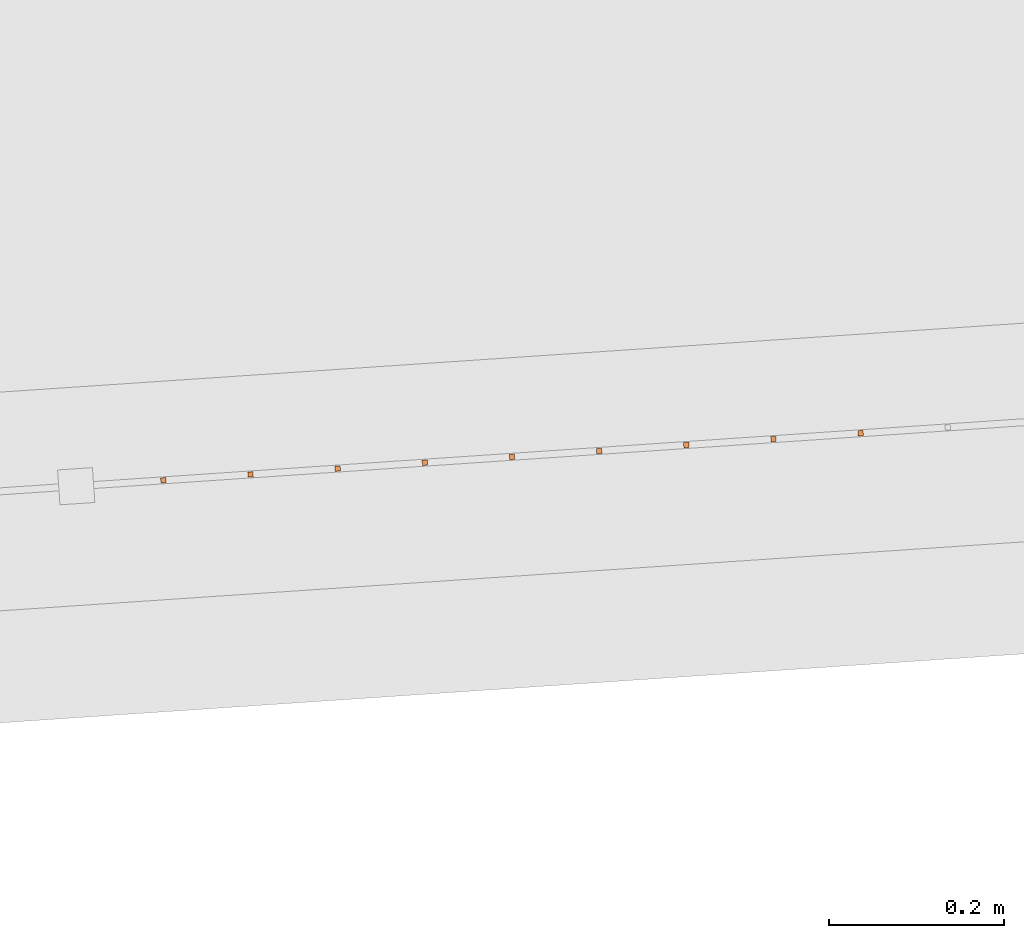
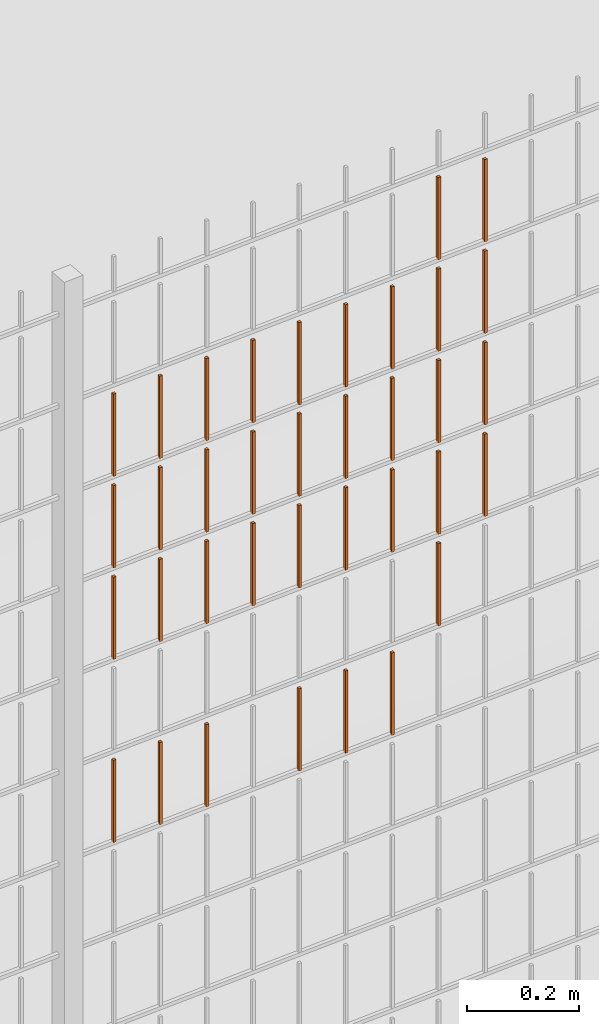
# One storey, part 155 of 1809: 36 proxies, 1 element without a shape of its own.
"""IFC2X3 building model written with IfcOpenShell, lengths in millimetres."""

from ifc_helpers import new_model, entity, si_unit, converted_unit, derived_unit, money_unit, direction, frame, origin_with_axes, place, context, subcontext, project, spatial, faceted_brep, source, transform, mapped, material, type_object, element, aggregate, save


model = new_model("IFC2X3")

# Units and contexts
model_context = context("Model", 3, precision=0.01, world=origin_with_axes(), true_north=direction((0.0, 1.0)))
body_context = subcontext(model_context, "Body", "Model", "MODEL_VIEW")
ifc_project = project(units=[si_unit("LENGTHUNIT", "METRE", prefix="MILLI"), si_unit("AREAUNIT", "SQUARE_METRE"), si_unit("VOLUMEUNIT", "CUBIC_METRE"), converted_unit("PLANEANGLEUNIT", "DEGREE", entity("IfcPlaneAngleMeasure", 0.0174532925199), si_unit("PLANEANGLEUNIT", "RADIAN"), dimensions=[0, 0, 0, 0, 0, 0, 0]), si_unit("SOLIDANGLEUNIT", "STERADIAN"), money_unit("EUR"), converted_unit("TIMEUNIT", "Year", entity("IfcTimeMeasure", 31556926.0), si_unit("TIMEUNIT", "SECOND"), dimensions=[0, 0, 1, 0, 0, 0, 0]), si_unit("MASSUNIT", "GRAM", prefix="KILO"), si_unit("THERMODYNAMICTEMPERATUREUNIT", "DEGREE_CELSIUS"), si_unit("LUMINOUSINTENSITYUNIT", "LUMEN"), si_unit("ENERGYUNIT", "JOULE", prefix="MEGA"), derived_unit("THERMALCONDUCTANCEUNIT", [(si_unit("POWERUNIT", "WATT"), 1), (si_unit("LENGTHUNIT", "METRE"), -1), (si_unit("THERMODYNAMICTEMPERATUREUNIT", "KELVIN"), -1)]), derived_unit("SPECIFICHEATCAPACITYUNIT", [(si_unit("ENERGYUNIT", "JOULE"), 1), (si_unit("MASSUNIT", "GRAM", prefix="KILO"), -1), (si_unit("THERMODYNAMICTEMPERATUREUNIT", "KELVIN"), -1)]), derived_unit("MASSDENSITYUNIT", [(si_unit("MASSUNIT", "GRAM", prefix="KILO"), 1), (si_unit("VOLUMEUNIT", "CUBIC_METRE"), -1)])], contexts=[model_context])

# Site, building, storey
site_placement = place(None, origin_with_axes())
site = spatial("IfcSite", under=ifc_project, at=site_placement, Name="Politse- ja Piirivalveameti ning Päästeameti ühishoone", CompositionType="ELEMENT")
building_placement = place(site_placement, origin_with_axes())
building = spatial("IfcBuilding", under=site, at=building_placement, Name="Politse- ja Piirivalveameti ning Päästeameti ühishoone", CompositionType="ELEMENT")
storey_placement = place(building_placement, origin_with_axes())
storey = spatial("IfcBuildingStorey", under=building, at=storey_placement, Name="Esimene korrus", CompositionType="ELEMENT", Elevation=0.0)

# Proxies
building_element_proxy_type_1 = type_object("IfcBuildingElementProxyType", Name="Railing Type", PredefinedType="NOTDEFINED")
proxy_1_placement = place(storey_placement, frame((89252.001212, -29183.4766571, 203.661247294), z_axis=(0.0, 0.0, 1.0), x_axis=(1.0, 0.0, 0.0)))
proxy_1 = element("IfcBuildingElementProxy", 1, at=proxy_1_placement, inside=storey, type_object=building_element_proxy_type_1, Name="PIIRDEAED")
ifc_material = material(Name="ET-03_Raud")
building_element_proxy_type_2 = type_object("IfcBuildingElementProxyType", Name="IfcBuildingElementProxy", PredefinedType="NOTDEFINED")
shared_shape_1 = source(origin_with_axes(), body_context, "Body", "Brep", [
    faceted_brep([(3.0, 3.0, -0.000752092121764), (-3.0, 3.0, -0.000752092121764), (-3.0, 3.0, 179.99926046), (3.0, 3.0, 179.99926046), (3.0, -3.0, 0.000752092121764), (-3.0, -3.0, 0.000752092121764), (-3.0, -3.0, 180.000764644), (3.0, -3.0, 180.000764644)], [[[0, 1, 2, 3]], [[0, 4, 5, 1]], [[1, 5, 6, 2]], [[3, 2, 6, 7]], [[4, 0, 3, 7]], [[5, 4, 7, 6]]]),
])
proxy_2_placement = place(proxy_1_placement, frame((-81640.6574683, -22812.2930729, 806.72064972), z_axis=(0.0, 0.0, 1.0), x_axis=(1.0, 0.0, 0.0)))
proxy_2 = element("IfcBuildingElementProxy", 2, at=proxy_2_placement, type_object=building_element_proxy_type_2, material=ifc_material, Name="BALUSTER - 001", context=body_context, shape_type="MappedRepresentation", body=[
    mapped(shared_shape_1, transform((0.0, 0.0, 0.0), x_axis=(-0.0673926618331, 0.997726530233, 0.0), y_axis=(-0.997726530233, -0.0673926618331, 0.0), z_axis=(0.0, 0.0, 1.0))),
])
proxy_3_placement = place(proxy_1_placement, frame((-81640.6574683, -22812.2930729, 1206.72064972), z_axis=(0.0, 0.0, 1.0), x_axis=(1.0, 0.0, 0.0)))
proxy_3 = element("IfcBuildingElementProxy", 3, at=proxy_3_placement, type_object=building_element_proxy_type_2, material=ifc_material, Name="BALUSTER - 001", context=body_context, shape_type="MappedRepresentation", body=[
    mapped(shared_shape_1, transform((0.0, 0.0, 0.0), x_axis=(-0.0673926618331, 0.997726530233, 0.0), y_axis=(-0.997726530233, -0.0673926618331, 0.0), z_axis=(0.0, 0.0, 1.0))),
])
shared_shape_2 = source(origin_with_axes(), body_context, "Body", "Brep", [
    faceted_brep([(3.0, 3.0, -0.000752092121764), (-3.0, 3.0, -0.000752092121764), (-3.0, 3.0, 179.99926046), (3.0, 3.0, 179.99926046), (3.0, -3.0, 0.000752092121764), (-3.0, -3.0, 0.000752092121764), (-3.0, -3.0, 180.000764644), (3.0, -3.0, 180.000764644)], [[[0, 1, 2, 3]], [[0, 4, 5, 1]], [[1, 5, 6, 2]], [[3, 2, 6, 7]], [[4, 0, 3, 7]], [[5, 4, 7, 6]]]),
])
proxy_4_placement = place(proxy_1_placement, frame((-81640.6574683, -22812.2930729, 1406.72064972), z_axis=(0.0, 0.0, 1.0), x_axis=(1.0, 0.0, 0.0)))
proxy_4 = element("IfcBuildingElementProxy", 4, at=proxy_4_placement, type_object=building_element_proxy_type_2, material=ifc_material, Name="BALUSTER - 001", context=body_context, shape_type="MappedRepresentation", body=[
    mapped(shared_shape_2, transform((0.0, 0.0, 0.0), x_axis=(-0.0673926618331, 0.997726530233, 0.0), y_axis=(-0.997726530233, -0.0673926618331, 0.0), z_axis=(0.0, 0.0, 1.0))),
])
proxy_5_placement = place(proxy_1_placement, frame((-81640.6574683, -22812.2930729, 1606.72064972), z_axis=(0.0, 0.0, 1.0), x_axis=(1.0, 0.0, 0.0)))
proxy_5 = element("IfcBuildingElementProxy", 5, at=proxy_5_placement, type_object=building_element_proxy_type_2, material=ifc_material, Name="BALUSTER - 001", context=body_context, shape_type="MappedRepresentation", body=[
    mapped(shared_shape_2, transform((0.0, 0.0, 0.0), x_axis=(-0.0673926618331, 0.997726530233, 0.0), y_axis=(-0.997726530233, -0.0673926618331, 0.0), z_axis=(0.0, 0.0, 1.0))),
])
shared_shape_3 = source(origin_with_axes(), body_context, "Body", "Brep", [
    faceted_brep([(3.0, 3.0, -0.000752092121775), (-3.0, 3.0, -0.000752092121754), (-3.0, 3.0, 179.99926046), (3.0, 3.0, 179.99926046), (3.0, -3.0, 0.000752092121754), (-3.0, -3.0, 0.000752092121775), (-3.0, -3.0, 180.000764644), (3.0, -3.0, 180.000764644)], [[[0, 1, 2, 3]], [[0, 4, 5, 1]], [[1, 5, 6, 2]], [[3, 2, 6, 7]], [[4, 0, 3, 7]], [[5, 4, 7, 6]]]),
])
proxy_6_placement = place(proxy_1_placement, frame((-81241.5668562, -22785.3360081, 1206.82092867), z_axis=(0.0, 0.0, 1.0), x_axis=(1.0, 0.0, 0.0)))
proxy_6 = element("IfcBuildingElementProxy", 6, at=proxy_6_placement, type_object=building_element_proxy_type_2, material=ifc_material, Name="BALUSTER - 001", context=body_context, shape_type="MappedRepresentation", body=[
    mapped(shared_shape_3, transform((0.0, 0.0, 0.0), x_axis=(-0.0673926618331, 0.997726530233, 0.0), y_axis=(-0.997726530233, -0.0673926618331, 0.0), z_axis=(0.0, 0.0, 1.0))),
])
shared_shape_4 = source(origin_with_axes(), body_context, "Body", "Brep", [
    faceted_brep([(3.0, 3.0, -0.000752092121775), (-3.0, 3.0, -0.000752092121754), (-3.0, 3.0, 179.99926046), (3.0, 3.0, 179.99926046), (3.0, -3.0, 0.000752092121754), (-3.0, -3.0, 0.000752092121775), (-3.0, -3.0, 180.000764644), (3.0, -3.0, 180.000764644)], [[[0, 1, 2, 3]], [[0, 4, 5, 1]], [[1, 5, 6, 2]], [[3, 2, 6, 7]], [[4, 0, 3, 7]], [[5, 4, 7, 6]]]),
])
proxy_7_placement = place(proxy_1_placement, frame((-81241.5668562, -22785.3360081, 1406.82092867), z_axis=(0.0, 0.0, 1.0), x_axis=(1.0, 0.0, 0.0)))
proxy_7 = element("IfcBuildingElementProxy", 7, at=proxy_7_placement, type_object=building_element_proxy_type_2, material=ifc_material, Name="BALUSTER - 001", context=body_context, shape_type="MappedRepresentation", body=[
    mapped(shared_shape_4, transform((0.0, 0.0, 0.0), x_axis=(-0.0673926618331, 0.997726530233, 0.0), y_axis=(-0.997726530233, -0.0673926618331, 0.0), z_axis=(0.0, 0.0, 1.0))),
])
proxy_8_placement = place(proxy_1_placement, frame((-81241.5668562, -22785.3360081, 1606.82092867), z_axis=(0.0, 0.0, 1.0), x_axis=(1.0, 0.0, 0.0)))
proxy_8 = element("IfcBuildingElementProxy", 8, at=proxy_8_placement, type_object=building_element_proxy_type_2, material=ifc_material, Name="BALUSTER - 001", context=body_context, shape_type="MappedRepresentation", body=[
    mapped(shared_shape_4, transform((0.0, 0.0, 0.0), x_axis=(-0.0673926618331, 0.997726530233, 0.0), y_axis=(-0.997726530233, -0.0673926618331, 0.0), z_axis=(0.0, 0.0, 1.0))),
])
shared_shape_5 = source(origin_with_axes(), body_context, "Body", "Brep", [
    faceted_brep([(3.0, 3.0, -0.000752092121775), (-3.0, 3.0, -0.000752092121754), (-3.0, 3.0, 179.99926046), (3.0, 3.0, 179.99926046), (3.0, -3.0, 0.000752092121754), (-3.0, -3.0, 0.000752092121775), (-3.0, -3.0, 180.000764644), (3.0, -3.0, 180.000764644)], [[[0, 1, 2, 3]], [[0, 4, 5, 1]], [[1, 5, 6, 2]], [[3, 2, 6, 7]], [[4, 0, 3, 7]], [[5, 4, 7, 6]]]),
])
proxy_9_placement = place(proxy_1_placement, frame((-81241.5668562, -22785.3360081, 1806.82092867), z_axis=(0.0, 0.0, 1.0), x_axis=(1.0, 0.0, 0.0)))
proxy_9 = element("IfcBuildingElementProxy", 9, at=proxy_9_placement, type_object=building_element_proxy_type_2, material=ifc_material, Name="BALUSTER - 001", context=body_context, shape_type="MappedRepresentation", body=[
    mapped(shared_shape_5, transform((0.0, 0.0, 0.0), x_axis=(-0.0673926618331, 0.997726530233, 0.0), y_axis=(-0.997726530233, -0.0673926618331, 0.0), z_axis=(0.0, 0.0, 1.0))),
])
shared_shape_6 = source(origin_with_axes(), body_context, "Body", "Brep", [
    faceted_brep([(3.0, 3.0, -0.000752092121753), (-3.0, 3.0, -0.000752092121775), (-3.0, 3.0, 179.99926046), (3.0, 3.0, 179.99926046), (3.0, -3.0, 0.000752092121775), (-3.0, -3.0, 0.000752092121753), (-3.0, -3.0, 180.000764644), (3.0, -3.0, 180.000764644)], [[[0, 1, 2, 3]], [[0, 4, 5, 1]], [[1, 5, 6, 2]], [[3, 2, 6, 7]], [[4, 0, 3, 7]], [[5, 4, 7, 6]]]),
])
proxy_10_placement = place(proxy_1_placement, frame((-81441.1121622, -22798.8145405, 806.770789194), z_axis=(0.0, 0.0, 1.0), x_axis=(1.0, 0.0, 0.0)))
proxy_10 = element("IfcBuildingElementProxy", 10, at=proxy_10_placement, type_object=building_element_proxy_type_2, material=ifc_material, Name="BALUSTER - 001", context=body_context, shape_type="MappedRepresentation", body=[
    mapped(shared_shape_6, transform((0.0, 0.0, 0.0), x_axis=(-0.0673926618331, 0.997726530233, 0.0), y_axis=(-0.997726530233, -0.0673926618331, 0.0), z_axis=(0.0, 0.0, 1.0))),
])
proxy_11_placement = place(proxy_1_placement, frame((-81441.1121622, -22798.8145405, 1206.77078919), z_axis=(0.0, 0.0, 1.0), x_axis=(1.0, 0.0, 0.0)))
proxy_11 = element("IfcBuildingElementProxy", 11, at=proxy_11_placement, type_object=building_element_proxy_type_2, material=ifc_material, Name="BALUSTER - 001", context=body_context, shape_type="MappedRepresentation", body=[
    mapped(shared_shape_6, transform((0.0, 0.0, 0.0), x_axis=(-0.0673926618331, 0.997726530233, 0.0), y_axis=(-0.997726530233, -0.0673926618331, 0.0), z_axis=(0.0, 0.0, 1.0))),
])
shared_shape_7 = source(origin_with_axes(), body_context, "Body", "Brep", [
    faceted_brep([(3.0, 3.0, -0.000752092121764), (-3.0, 3.0, -0.000752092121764), (-3.0, 3.0, 179.99926046), (3.0, 3.0, 179.99926046), (3.0, -3.0, 0.000752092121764), (-3.0, -3.0, 0.000752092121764), (-3.0, -3.0, 180.000764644), (3.0, -3.0, 180.000764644)], [[[0, 1, 2, 3]], [[0, 4, 5, 1]], [[1, 5, 6, 2]], [[3, 2, 6, 7]], [[4, 0, 3, 7]], [[5, 4, 7, 6]]]),
])
proxy_12_placement = place(proxy_1_placement, frame((-81540.8848152, -22805.5538067, 806.745719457), z_axis=(0.0, 0.0, 1.0), x_axis=(1.0, 0.0, 0.0)))
proxy_12 = element("IfcBuildingElementProxy", 12, at=proxy_12_placement, type_object=building_element_proxy_type_2, material=ifc_material, Name="BALUSTER - 001", context=body_context, shape_type="MappedRepresentation", body=[
    mapped(shared_shape_7, transform((0.0, 0.0, 0.0), x_axis=(-0.0673926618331, 0.997726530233, 0.0), y_axis=(-0.997726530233, -0.0673926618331, 0.0), z_axis=(0.0, 0.0, 1.0))),
])
shared_shape_8 = source(origin_with_axes(), body_context, "Body", "Brep", [
    faceted_brep([(3.0, 3.0, -0.000752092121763), (-3.0, 3.0, -0.000752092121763), (-3.0, 3.0, 179.99926046), (3.0, 3.0, 179.99926046), (3.0, -3.0, 0.000752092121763), (-3.0, -3.0, 0.000752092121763), (-3.0, -3.0, 180.000764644), (3.0, -3.0, 180.000764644)], [[[0, 1, 2, 3]], [[0, 4, 5, 1]], [[1, 5, 6, 2]], [[3, 2, 6, 7]], [[4, 0, 3, 7]], [[5, 4, 7, 6]]]),
])
proxy_13_placement = place(proxy_1_placement, frame((-81840.2027743, -22825.7716052, 806.670510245), z_axis=(0.0, 0.0, 1.0), x_axis=(1.0, 0.0, 0.0)))
proxy_13 = element("IfcBuildingElementProxy", 13, at=proxy_13_placement, type_object=building_element_proxy_type_2, material=ifc_material, Name="BALUSTER - 001", context=body_context, shape_type="MappedRepresentation", body=[
    mapped(shared_shape_8, transform((0.0, 0.0, 0.0), x_axis=(-0.0673926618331, 0.997726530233, 0.0), y_axis=(-0.997726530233, -0.0673926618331, 0.0), z_axis=(0.0, 0.0, 1.0))),
])
shared_shape_9 = source(origin_with_axes(), body_context, "Body", "Brep", [
    faceted_brep([(3.0, 3.0, -0.000752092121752), (-3.0, 3.0, -0.000752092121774), (-3.0, 3.0, 179.99926046), (3.0, 3.0, 179.99926046), (3.0, -3.0, 0.000752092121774), (-3.0, -3.0, 0.000752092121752), (-3.0, -3.0, 180.000764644), (3.0, -3.0, 180.000764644)], [[[0, 1, 2, 3]], [[0, 4, 5, 1]], [[1, 5, 6, 2]], [[3, 2, 6, 7]], [[4, 0, 3, 7]], [[5, 4, 7, 6]]]),
])
proxy_14_placement = place(proxy_1_placement, frame((-81939.9754273, -22832.5108714, 806.645440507), z_axis=(0.0, 0.0, 1.0), x_axis=(1.0, 0.0, 0.0)))
proxy_14 = element("IfcBuildingElementProxy", 14, at=proxy_14_placement, type_object=building_element_proxy_type_2, material=ifc_material, Name="BALUSTER - 001", context=body_context, shape_type="MappedRepresentation", body=[
    mapped(shared_shape_9, transform((0.0, 0.0, 0.0), x_axis=(-0.0673926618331, 0.997726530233, 0.0), y_axis=(-0.997726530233, -0.0673926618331, 0.0), z_axis=(0.0, 0.0, 1.0))),
])
shared_shape_10 = source(origin_with_axes(), body_context, "Body", "Brep", [
    faceted_brep([(3.0, 3.0, -0.000752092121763), (-3.0, 3.0, -0.000752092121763), (-3.0, 3.0, 179.99926046), (3.0, 3.0, 179.99926046), (3.0, -3.0, 0.000752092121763), (-3.0, -3.0, 0.000752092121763), (-3.0, -3.0, 180.000764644), (3.0, -3.0, 180.000764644)], [[[0, 1, 2, 3]], [[0, 4, 5, 1]], [[1, 5, 6, 2]], [[3, 2, 6, 7]], [[4, 0, 3, 7]], [[5, 4, 7, 6]]]),
])
proxy_15_placement = place(proxy_1_placement, frame((-82039.7480803, -22839.2501376, 806.62037077), z_axis=(0.0, 0.0, 1.0), x_axis=(1.0, 0.0, 0.0)))
proxy_15 = element("IfcBuildingElementProxy", 15, at=proxy_15_placement, type_object=building_element_proxy_type_2, material=ifc_material, Name="BALUSTER - 001", context=body_context, shape_type="MappedRepresentation", body=[
    mapped(shared_shape_10, transform((0.0, 0.0, 0.0), x_axis=(-0.0673926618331, 0.997726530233, 0.0), y_axis=(-0.997726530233, -0.0673926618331, 0.0), z_axis=(0.0, 0.0, 1.0))),
])
shared_shape_11 = source(origin_with_axes(), body_context, "Body", "Brep", [
    faceted_brep([(3.0, 3.0, -0.000752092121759), (-3.0, 3.0, -0.000752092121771), (-3.00000000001, 3.0, 179.99926046), (2.99999999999, 3.0, 179.99926046), (3.0, -3.0, 0.000752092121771), (-3.0, -3.0, 0.000752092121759), (-3.00000000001, -3.0, 180.000764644), (2.99999999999, -3.0, 180.000764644)], [[[0, 1, 2, 3]], [[0, 4, 5, 1]], [[1, 5, 6, 2]], [[3, 2, 6, 7]], [[4, 0, 3, 7]], [[5, 4, 7, 6]]]),
])
proxy_16_placement = place(proxy_1_placement, frame((-81341.3395092, -22792.0752743, 1006.79585893), z_axis=(0.0, 0.0, 1.0), x_axis=(1.0, 0.0, 0.0)))
proxy_16 = element("IfcBuildingElementProxy", 16, at=proxy_16_placement, type_object=building_element_proxy_type_2, material=ifc_material, Name="BALUSTER - 001", context=body_context, shape_type="MappedRepresentation", body=[
    mapped(shared_shape_11, transform((0.0, 0.0, 0.0), x_axis=(-0.0673926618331, 0.997726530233, 0.0), y_axis=(-0.997726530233, -0.0673926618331, 0.0), z_axis=(0.0, 0.0, 1.0))),
])
shared_shape_12 = source(origin_with_axes(), body_context, "Body", "Brep", [
    faceted_brep([(3.0, 3.0, -0.000752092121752), (-3.0, 3.0, -0.000752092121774), (-3.0, 3.0, 179.99926046), (3.0, 3.0, 179.99926046), (3.0, -3.0, 0.000752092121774), (-3.0, -3.0, 0.000752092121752), (-3.0, -3.0, 180.000764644), (3.0, -3.0, 180.000764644)], [[[0, 1, 2, 3]], [[0, 4, 5, 1]], [[1, 5, 6, 2]], [[3, 2, 6, 7]], [[4, 0, 3, 7]], [[5, 4, 7, 6]]]),
])
proxy_17_placement = place(proxy_1_placement, frame((-81341.3395092, -22792.0752743, 1206.79585893), z_axis=(0.0, 0.0, 1.0), x_axis=(1.0, 0.0, 0.0)))
proxy_17 = element("IfcBuildingElementProxy", 17, at=proxy_17_placement, type_object=building_element_proxy_type_2, material=ifc_material, Name="BALUSTER - 001", context=body_context, shape_type="MappedRepresentation", body=[
    mapped(shared_shape_12, transform((0.0, 0.0, 0.0), x_axis=(-0.0673926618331, 0.997726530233, 0.0), y_axis=(-0.997726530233, -0.0673926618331, 0.0), z_axis=(0.0, 0.0, 1.0))),
])
shared_shape_13 = source(origin_with_axes(), body_context, "Body", "Brep", [
    faceted_brep([(3.0, 3.0, -0.000752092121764), (-3.0, 3.0, -0.000752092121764), (-3.0, 3.0, 179.99926046), (3.0, 3.0, 179.99926046), (3.0, -3.0, 0.000752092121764), (-3.0, -3.0, 0.000752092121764), (-3.0, -3.0, 180.000764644), (3.0, -3.0, 180.000764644)], [[[0, 1, 2, 3]], [[0, 4, 5, 1]], [[1, 5, 6, 2]], [[3, 2, 6, 7]], [[4, 0, 3, 7]], [[5, 4, 7, 6]]]),
])
proxy_18_placement = place(proxy_1_placement, frame((-81540.8848152, -22805.5538067, 1206.74571946), z_axis=(0.0, 0.0, 1.0), x_axis=(1.0, 0.0, 0.0)))
proxy_18 = element("IfcBuildingElementProxy", 18, at=proxy_18_placement, type_object=building_element_proxy_type_2, material=ifc_material, Name="BALUSTER - 001", context=body_context, shape_type="MappedRepresentation", body=[
    mapped(shared_shape_13, transform((0.0, 0.0, 0.0), x_axis=(-0.0673926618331, 0.997726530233, 0.0), y_axis=(-0.997726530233, -0.0673926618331, 0.0), z_axis=(0.0, 0.0, 1.0))),
])
shared_shape_14 = source(origin_with_axes(), body_context, "Body", "Brep", [
    faceted_brep([(3.0, 3.0, -0.000752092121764), (-3.0, 3.0, -0.000752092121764), (-3.0, 3.0, 179.99926046), (3.0, 3.0, 179.99926046), (3.0, -3.0, 0.000752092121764), (-3.0, -3.0, 0.000752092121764), (-3.0, -3.0, 180.000764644), (3.0, -3.0, 180.000764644)], [[[0, 1, 2, 3]], [[0, 4, 5, 1]], [[1, 5, 6, 2]], [[3, 2, 6, 7]], [[4, 0, 3, 7]], [[5, 4, 7, 6]]]),
])
proxy_19_placement = place(proxy_1_placement, frame((-81740.4301213, -22819.032339, 1206.69557998), z_axis=(0.0, 0.0, 1.0), x_axis=(1.0, 0.0, 0.0)))
proxy_19 = element("IfcBuildingElementProxy", 19, at=proxy_19_placement, type_object=building_element_proxy_type_2, material=ifc_material, Name="BALUSTER - 001", context=body_context, shape_type="MappedRepresentation", body=[
    mapped(shared_shape_14, transform((0.0, 0.0, 0.0), x_axis=(-0.0673926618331, 0.997726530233, 0.0), y_axis=(-0.997726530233, -0.0673926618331, 0.0), z_axis=(0.0, 0.0, 1.0))),
])
shared_shape_15 = source(origin_with_axes(), body_context, "Body", "Brep", [
    faceted_brep([(3.0, 3.0, -0.000752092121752), (-3.0, 3.0, -0.000752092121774), (-3.0, 3.0, 179.99926046), (3.0, 3.0, 179.99926046), (3.0, -3.0, 0.000752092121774), (-3.0, -3.0, 0.000752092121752), (-3.0, -3.0, 180.000764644), (3.0, -3.0, 180.000764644)], [[[0, 1, 2, 3]], [[0, 4, 5, 1]], [[1, 5, 6, 2]], [[3, 2, 6, 7]], [[4, 0, 3, 7]], [[5, 4, 7, 6]]]),
])
proxy_20_placement = place(proxy_1_placement, frame((-81840.2027743, -22825.7716052, 1206.67051024), z_axis=(0.0, 0.0, 1.0), x_axis=(1.0, 0.0, 0.0)))
proxy_20 = element("IfcBuildingElementProxy", 20, at=proxy_20_placement, type_object=building_element_proxy_type_2, material=ifc_material, Name="BALUSTER - 001", context=body_context, shape_type="MappedRepresentation", body=[
    mapped(shared_shape_15, transform((0.0, 0.0, 0.0), x_axis=(-0.0673926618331, 0.997726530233, 0.0), y_axis=(-0.997726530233, -0.0673926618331, 0.0), z_axis=(0.0, 0.0, 1.0))),
])
proxy_21_placement = place(proxy_1_placement, frame((-81341.3395092, -22792.0752743, 1806.79585893), z_axis=(0.0, 0.0, 1.0), x_axis=(1.0, 0.0, 0.0)))
proxy_21 = element("IfcBuildingElementProxy", 21, at=proxy_21_placement, type_object=building_element_proxy_type_2, material=ifc_material, Name="BALUSTER - 001", context=body_context, shape_type="MappedRepresentation", body=[
    mapped(shared_shape_15, transform((0.0, 0.0, 0.0), x_axis=(-0.0673926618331, 0.997726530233, 0.0), y_axis=(-0.997726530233, -0.0673926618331, 0.0), z_axis=(0.0, 0.0, 1.0))),
])
shared_shape_16 = source(origin_with_axes(), body_context, "Body", "Brep", [
    faceted_brep([(3.0, 3.0, -0.000752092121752), (-3.0, 3.0, -0.000752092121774), (-3.0, 3.0, 179.99926046), (3.0, 3.0, 179.99926046), (3.0, -3.0, 0.000752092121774), (-3.0, -3.0, 0.000752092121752), (-3.0, -3.0, 180.000764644), (3.0, -3.0, 180.000764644)], [[[0, 1, 2, 3]], [[0, 4, 5, 1]], [[1, 5, 6, 2]], [[3, 2, 6, 7]], [[4, 0, 3, 7]], [[5, 4, 7, 6]]]),
])
proxy_22_placement = place(proxy_1_placement, frame((-81939.9754273, -22832.5108714, 1206.64544051), z_axis=(0.0, 0.0, 1.0), x_axis=(1.0, 0.0, 0.0)))
proxy_22 = element("IfcBuildingElementProxy", 22, at=proxy_22_placement, type_object=building_element_proxy_type_2, material=ifc_material, Name="BALUSTER - 001", context=body_context, shape_type="MappedRepresentation", body=[
    mapped(shared_shape_16, transform((0.0, 0.0, 0.0), x_axis=(-0.0673926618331, 0.997726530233, 0.0), y_axis=(-0.997726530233, -0.0673926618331, 0.0), z_axis=(0.0, 0.0, 1.0))),
])
shared_shape_17 = source(origin_with_axes(), body_context, "Body", "Brep", [
    faceted_brep([(3.0, 3.0, -0.000752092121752), (-3.0, 3.0, -0.000752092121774), (-3.0, 3.0, 179.99926046), (3.0, 3.0, 179.99926046), (3.0, -3.0, 0.000752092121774), (-3.0, -3.0, 0.000752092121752), (-3.0, -3.0, 180.000764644), (3.0, -3.0, 180.000764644)], [[[0, 1, 2, 3]], [[0, 4, 5, 1]], [[1, 5, 6, 2]], [[3, 2, 6, 7]], [[4, 0, 3, 7]], [[5, 4, 7, 6]]]),
])
proxy_23_placement = place(proxy_1_placement, frame((-82039.7480803, -22839.2501376, 1206.62037077), z_axis=(0.0, 0.0, 1.0), x_axis=(1.0, 0.0, 0.0)))
proxy_23 = element("IfcBuildingElementProxy", 23, at=proxy_23_placement, type_object=building_element_proxy_type_2, material=ifc_material, Name="BALUSTER - 001", context=body_context, shape_type="MappedRepresentation", body=[
    mapped(shared_shape_17, transform((0.0, 0.0, 0.0), x_axis=(-0.0673926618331, 0.997726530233, 0.0), y_axis=(-0.997726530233, -0.0673926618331, 0.0), z_axis=(0.0, 0.0, 1.0))),
])
shared_shape_18 = source(origin_with_axes(), body_context, "Body", "Brep", [
    faceted_brep([(3.0, 3.0, -0.000752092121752), (-3.0, 3.0, -0.000752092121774), (-3.0, 3.0, 179.99926046), (3.0, 3.0, 179.99926046), (3.0, -3.0, 0.000752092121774), (-3.0, -3.0, 0.000752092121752), (-3.0, -3.0, 180.000764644), (3.0, -3.0, 180.000764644)], [[[0, 1, 2, 3]], [[0, 4, 5, 1]], [[1, 5, 6, 2]], [[3, 2, 6, 7]], [[4, 0, 3, 7]], [[5, 4, 7, 6]]]),
])
proxy_24_placement = place(proxy_1_placement, frame((-81341.3395092, -22792.0752743, 1406.79585893), z_axis=(0.0, 0.0, 1.0), x_axis=(1.0, 0.0, 0.0)))
proxy_24 = element("IfcBuildingElementProxy", 24, at=proxy_24_placement, type_object=building_element_proxy_type_2, material=ifc_material, Name="BALUSTER - 001", context=body_context, shape_type="MappedRepresentation", body=[
    mapped(shared_shape_18, transform((0.0, 0.0, 0.0), x_axis=(-0.0673926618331, 0.997726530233, 0.0), y_axis=(-0.997726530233, -0.0673926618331, 0.0), z_axis=(0.0, 0.0, 1.0))),
])
proxy_25_placement = place(proxy_1_placement, frame((-81341.3395092, -22792.0752743, 1606.79585893), z_axis=(0.0, 0.0, 1.0), x_axis=(1.0, 0.0, 0.0)))
proxy_25 = element("IfcBuildingElementProxy", 25, at=proxy_25_placement, type_object=building_element_proxy_type_2, material=ifc_material, Name="BALUSTER - 001", context=body_context, shape_type="MappedRepresentation", body=[
    mapped(shared_shape_18, transform((0.0, 0.0, 0.0), x_axis=(-0.0673926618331, 0.997726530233, 0.0), y_axis=(-0.997726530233, -0.0673926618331, 0.0), z_axis=(0.0, 0.0, 1.0))),
])
shared_shape_19 = source(origin_with_axes(), body_context, "Body", "Brep", [
    faceted_brep([(3.0, 3.0, -0.000752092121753), (-3.0, 3.0, -0.000752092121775), (-3.0, 3.0, 179.99926046), (3.0, 3.0, 179.99926046), (3.0, -3.0, 0.000752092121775), (-3.0, -3.0, 0.000752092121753), (-3.0, -3.0, 180.000764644), (3.0, -3.0, 180.000764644)], [[[0, 1, 2, 3]], [[0, 4, 5, 1]], [[1, 5, 6, 2]], [[3, 2, 6, 7]], [[4, 0, 3, 7]], [[5, 4, 7, 6]]]),
])
proxy_26_placement = place(proxy_1_placement, frame((-81441.1121622, -22798.8145405, 1406.77078919), z_axis=(0.0, 0.0, 1.0), x_axis=(1.0, 0.0, 0.0)))
proxy_26 = element("IfcBuildingElementProxy", 26, at=proxy_26_placement, type_object=building_element_proxy_type_2, material=ifc_material, Name="BALUSTER - 001", context=body_context, shape_type="MappedRepresentation", body=[
    mapped(shared_shape_19, transform((0.0, 0.0, 0.0), x_axis=(-0.0673926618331, 0.997726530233, 0.0), y_axis=(-0.997726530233, -0.0673926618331, 0.0), z_axis=(0.0, 0.0, 1.0))),
])
proxy_27_placement = place(proxy_1_placement, frame((-81441.1121622, -22798.8145405, 1606.77078919), z_axis=(0.0, 0.0, 1.0), x_axis=(1.0, 0.0, 0.0)))
proxy_27 = element("IfcBuildingElementProxy", 27, at=proxy_27_placement, type_object=building_element_proxy_type_2, material=ifc_material, Name="BALUSTER - 001", context=body_context, shape_type="MappedRepresentation", body=[
    mapped(shared_shape_19, transform((0.0, 0.0, 0.0), x_axis=(-0.0673926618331, 0.997726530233, 0.0), y_axis=(-0.997726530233, -0.0673926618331, 0.0), z_axis=(0.0, 0.0, 1.0))),
])
shared_shape_20 = source(origin_with_axes(), body_context, "Body", "Brep", [
    faceted_brep([(3.0, 3.0, -0.000752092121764), (-3.0, 3.0, -0.000752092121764), (-3.0, 3.0, 179.99926046), (3.0, 3.0, 179.99926046), (3.0, -3.0, 0.000752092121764), (-3.0, -3.0, 0.000752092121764), (-3.0, -3.0, 180.000764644), (3.0, -3.0, 180.000764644)], [[[0, 1, 2, 3]], [[0, 4, 5, 1]], [[1, 5, 6, 2]], [[3, 2, 6, 7]], [[4, 0, 3, 7]], [[5, 4, 7, 6]]]),
])
proxy_28_placement = place(proxy_1_placement, frame((-81540.8848152, -22805.5538067, 1406.74571946), z_axis=(0.0, 0.0, 1.0), x_axis=(1.0, 0.0, 0.0)))
proxy_28 = element("IfcBuildingElementProxy", 28, at=proxy_28_placement, type_object=building_element_proxy_type_2, material=ifc_material, Name="BALUSTER - 001", context=body_context, shape_type="MappedRepresentation", body=[
    mapped(shared_shape_20, transform((0.0, 0.0, 0.0), x_axis=(-0.0673926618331, 0.997726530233, 0.0), y_axis=(-0.997726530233, -0.0673926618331, 0.0), z_axis=(0.0, 0.0, 1.0))),
])
proxy_29_placement = place(proxy_1_placement, frame((-81540.8848152, -22805.5538067, 1606.74571946), z_axis=(0.0, 0.0, 1.0), x_axis=(1.0, 0.0, 0.0)))
proxy_29 = element("IfcBuildingElementProxy", 29, at=proxy_29_placement, type_object=building_element_proxy_type_2, material=ifc_material, Name="BALUSTER - 001", context=body_context, shape_type="MappedRepresentation", body=[
    mapped(shared_shape_20, transform((0.0, 0.0, 0.0), x_axis=(-0.0673926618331, 0.997726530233, 0.0), y_axis=(-0.997726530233, -0.0673926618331, 0.0), z_axis=(0.0, 0.0, 1.0))),
])
shared_shape_21 = source(origin_with_axes(), body_context, "Body", "Brep", [
    faceted_brep([(3.0, 3.0, -0.000752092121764), (-3.0, 3.0, -0.000752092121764), (-3.0, 3.0, 179.99926046), (3.0, 3.0, 179.99926046), (3.0, -3.0, 0.000752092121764), (-3.0, -3.0, 0.000752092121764), (-3.0, -3.0, 180.000764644), (3.0, -3.0, 180.000764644)], [[[0, 1, 2, 3]], [[0, 4, 5, 1]], [[1, 5, 6, 2]], [[3, 2, 6, 7]], [[4, 0, 3, 7]], [[5, 4, 7, 6]]]),
])
proxy_30_placement = place(proxy_1_placement, frame((-81740.4301213, -22819.032339, 1406.69557998), z_axis=(0.0, 0.0, 1.0), x_axis=(1.0, 0.0, 0.0)))
proxy_30 = element("IfcBuildingElementProxy", 30, at=proxy_30_placement, type_object=building_element_proxy_type_2, material=ifc_material, Name="BALUSTER - 001", context=body_context, shape_type="MappedRepresentation", body=[
    mapped(shared_shape_21, transform((0.0, 0.0, 0.0), x_axis=(-0.0673926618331, 0.997726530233, 0.0), y_axis=(-0.997726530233, -0.0673926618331, 0.0), z_axis=(0.0, 0.0, 1.0))),
])
proxy_31_placement = place(proxy_1_placement, frame((-81740.4301213, -22819.032339, 1606.69557998), z_axis=(0.0, 0.0, 1.0), x_axis=(1.0, 0.0, 0.0)))
proxy_31 = element("IfcBuildingElementProxy", 31, at=proxy_31_placement, type_object=building_element_proxy_type_2, material=ifc_material, Name="BALUSTER - 001", context=body_context, shape_type="MappedRepresentation", body=[
    mapped(shared_shape_21, transform((0.0, 0.0, 0.0), x_axis=(-0.0673926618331, 0.997726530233, 0.0), y_axis=(-0.997726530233, -0.0673926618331, 0.0), z_axis=(0.0, 0.0, 1.0))),
])
shared_shape_22 = source(origin_with_axes(), body_context, "Body", "Brep", [
    faceted_brep([(3.0, 3.0, -0.000752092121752), (-3.0, 3.0, -0.000752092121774), (-3.0, 3.0, 179.99926046), (3.0, 3.0, 179.99926046), (3.0, -3.0, 0.000752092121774), (-3.0, -3.0, 0.000752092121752), (-3.0, -3.0, 180.000764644), (3.0, -3.0, 180.000764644)], [[[0, 1, 2, 3]], [[0, 4, 5, 1]], [[1, 5, 6, 2]], [[3, 2, 6, 7]], [[4, 0, 3, 7]], [[5, 4, 7, 6]]]),
])
proxy_32_placement = place(proxy_1_placement, frame((-81840.2027743, -22825.7716052, 1406.67051024), z_axis=(0.0, 0.0, 1.0), x_axis=(1.0, 0.0, 0.0)))
proxy_32 = element("IfcBuildingElementProxy", 32, at=proxy_32_placement, type_object=building_element_proxy_type_2, material=ifc_material, Name="BALUSTER - 001", context=body_context, shape_type="MappedRepresentation", body=[
    mapped(shared_shape_22, transform((0.0, 0.0, 0.0), x_axis=(-0.0673926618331, 0.997726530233, 0.0), y_axis=(-0.997726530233, -0.0673926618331, 0.0), z_axis=(0.0, 0.0, 1.0))),
])
proxy_33_placement = place(proxy_1_placement, frame((-81840.2027743, -22825.7716052, 1606.67051024), z_axis=(0.0, 0.0, 1.0), x_axis=(1.0, 0.0, 0.0)))
proxy_33 = element("IfcBuildingElementProxy", 33, at=proxy_33_placement, type_object=building_element_proxy_type_2, material=ifc_material, Name="BALUSTER - 001", context=body_context, shape_type="MappedRepresentation", body=[
    mapped(shared_shape_22, transform((0.0, 0.0, 0.0), x_axis=(-0.0673926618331, 0.997726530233, 0.0), y_axis=(-0.997726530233, -0.0673926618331, 0.0), z_axis=(0.0, 0.0, 1.0))),
])
shared_shape_23 = source(origin_with_axes(), body_context, "Body", "Brep", [
    faceted_brep([(3.0, 3.0, -0.000752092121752), (-3.0, 3.0, -0.000752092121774), (-3.0, 3.0, 179.99926046), (3.0, 3.0, 179.99926046), (3.0, -3.0, 0.000752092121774), (-3.0, -3.0, 0.000752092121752), (-3.0, -3.0, 180.000764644), (3.0, -3.0, 180.000764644)], [[[0, 1, 2, 3]], [[0, 4, 5, 1]], [[1, 5, 6, 2]], [[3, 2, 6, 7]], [[4, 0, 3, 7]], [[5, 4, 7, 6]]]),
])
proxy_34_placement = place(proxy_1_placement, frame((-81939.9754273, -22832.5108714, 1406.64544051), z_axis=(0.0, 0.0, 1.0), x_axis=(1.0, 0.0, 0.0)))
proxy_34 = element("IfcBuildingElementProxy", 34, at=proxy_34_placement, type_object=building_element_proxy_type_2, material=ifc_material, Name="BALUSTER - 001", context=body_context, shape_type="MappedRepresentation", body=[
    mapped(shared_shape_23, transform((0.0, 0.0, 0.0), x_axis=(-0.0673926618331, 0.997726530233, 0.0), y_axis=(-0.997726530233, -0.0673926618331, 0.0), z_axis=(0.0, 0.0, 1.0))),
])
proxy_35_placement = place(proxy_1_placement, frame((-81939.9754273, -22832.5108714, 1606.64544051), z_axis=(0.0, 0.0, 1.0), x_axis=(1.0, 0.0, 0.0)))
proxy_35 = element("IfcBuildingElementProxy", 35, at=proxy_35_placement, type_object=building_element_proxy_type_2, material=ifc_material, Name="BALUSTER - 001", context=body_context, shape_type="MappedRepresentation", body=[
    mapped(shared_shape_23, transform((0.0, 0.0, 0.0), x_axis=(-0.0673926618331, 0.997726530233, 0.0), y_axis=(-0.997726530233, -0.0673926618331, 0.0), z_axis=(0.0, 0.0, 1.0))),
])
shared_shape_24 = source(origin_with_axes(), body_context, "Body", "Brep", [
    faceted_brep([(3.0, 3.0, -0.000752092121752), (-3.0, 3.0, -0.000752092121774), (-3.0, 3.0, 179.99926046), (3.0, 3.0, 179.99926046), (3.0, -3.0, 0.000752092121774), (-3.0, -3.0, 0.000752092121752), (-3.0, -3.0, 180.000764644), (3.0, -3.0, 180.000764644)], [[[0, 1, 2, 3]], [[0, 4, 5, 1]], [[1, 5, 6, 2]], [[3, 2, 6, 7]], [[4, 0, 3, 7]], [[5, 4, 7, 6]]]),
])
proxy_36_placement = place(proxy_1_placement, frame((-82039.7480803, -22839.2501376, 1406.62037077), z_axis=(0.0, 0.0, 1.0), x_axis=(1.0, 0.0, 0.0)))
proxy_36 = element("IfcBuildingElementProxy", 36, at=proxy_36_placement, type_object=building_element_proxy_type_2, material=ifc_material, Name="BALUSTER - 001", context=body_context, shape_type="MappedRepresentation", body=[
    mapped(shared_shape_24, transform((0.0, 0.0, 0.0), x_axis=(-0.0673926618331, 0.997726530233, 0.0), y_axis=(-0.997726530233, -0.0673926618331, 0.0), z_axis=(0.0, 0.0, 1.0))),
])
proxy_37_placement = place(proxy_1_placement, frame((-82039.7480803, -22839.2501376, 1606.62037077), z_axis=(0.0, 0.0, 1.0), x_axis=(1.0, 0.0, 0.0)))
proxy_37 = element("IfcBuildingElementProxy", 37, at=proxy_37_placement, type_object=building_element_proxy_type_2, material=ifc_material, Name="BALUSTER - 001", context=body_context, shape_type="MappedRepresentation", body=[
    mapped(shared_shape_24, transform((0.0, 0.0, 0.0), x_axis=(-0.0673926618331, 0.997726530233, 0.0), y_axis=(-0.997726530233, -0.0673926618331, 0.0), z_axis=(0.0, 0.0, 1.0))),
])
aggregate(proxy_1, [proxy_10, proxy_12, proxy_2, proxy_13, proxy_14, proxy_15, proxy_16, proxy_6, proxy_17, proxy_11, proxy_18, proxy_3, proxy_19, proxy_20, proxy_22, proxy_23, proxy_7, proxy_24, proxy_26, proxy_28, proxy_4, proxy_30, proxy_32, proxy_34, proxy_36, proxy_8, proxy_25, proxy_27, proxy_29, proxy_5, proxy_31, proxy_33, proxy_35, proxy_37, proxy_9, proxy_21])

save(model, "model.ifc")
